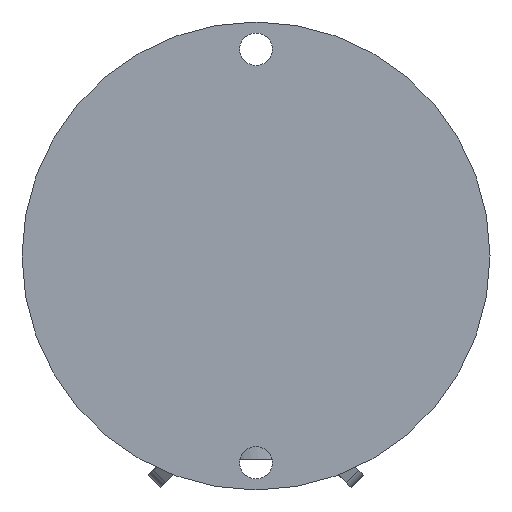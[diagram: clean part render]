
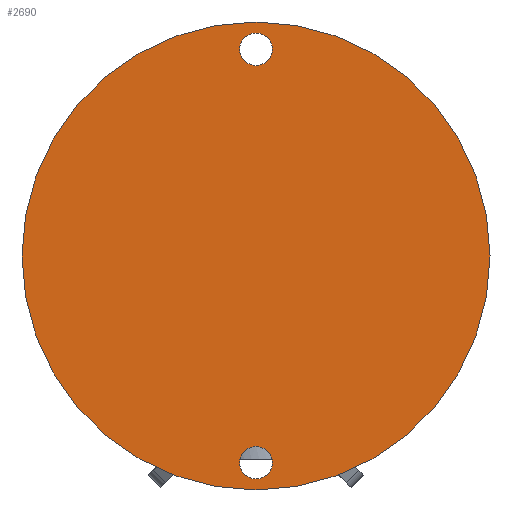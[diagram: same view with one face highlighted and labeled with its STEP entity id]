
A CAD part, front view. The second image highlights one B-rep face of the part: STEP entity #2690.
In plain terms, the highlighted planar face has unit normal (0, -1, 0).
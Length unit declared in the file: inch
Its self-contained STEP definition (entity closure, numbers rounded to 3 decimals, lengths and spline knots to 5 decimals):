
#67 = VERTEX_POINT ( 'NONE', #18892 ) ;
#591 = CIRCLE ( 'NONE', #8387, 0.0565 ) ;
#794 = DIRECTION ( 'NONE',  ( 0., 0., -1. ) ) ;
#825 = EDGE_CURVE ( 'NONE', #27585, #8367, #1439, .T. ) ;
#1084 = AXIS2_PLACEMENT_3D ( 'NONE', #24164, #2798, #7682 ) ;
#1149 = EDGE_CURVE ( 'NONE', #22985, #23050, #25855, .T. ) ;
#1316 = DIRECTION ( 'NONE',  ( 0., -1., 0. ) ) ;
#1439 = CIRCLE ( 'NONE', #15087, 0.0565 ) ;
#1832 = AXIS2_PLACEMENT_3D ( 'NONE', #27152, #20216, #22602 ) ;
#2613 = FACE_BOUND ( 'NONE', #23952, .T. ) ;
#2690 = ADVANCED_FACE ( 'NONE', ( #2613, #14511, #28565 ), #28194, .F. ) ;
#2798 = DIRECTION ( 'NONE',  ( 0., -1., 0. ) ) ;
#3158 = DIRECTION ( 'NONE',  ( 0., 1., 0. ) ) ;
#4376 = CARTESIAN_POINT ( 'NONE',  ( 0., -0.51295, 0.81225 ) ) ;
#4676 = CIRCLE ( 'NONE', #5313, 0.81225 ) ;
#5313 = AXIS2_PLACEMENT_3D ( 'NONE', #17573, #15212, #22229 ) ;
#6348 = AXIS2_PLACEMENT_3D ( 'NONE', #25614, #18888, #11721 ) ;
#7219 = EDGE_CURVE ( 'NONE', #67, #26122, #591, .T. ) ;
#7682 = DIRECTION ( 'NONE',  ( 0., 0., 1. ) ) ;
#7728 = ORIENTED_EDGE ( 'NONE', *, *, #28022, .F. ) ;
#8029 = CARTESIAN_POINT ( 'NONE',  ( 0., -0.51295, 0. ) ) ;
#8262 = ORIENTED_EDGE ( 'NONE', *, *, #825, .F. ) ;
#8367 = VERTEX_POINT ( 'NONE', #24010 ) ;
#8387 = AXIS2_PLACEMENT_3D ( 'NONE', #17795, #1316, #20267 ) ;
#8686 = CARTESIAN_POINT ( 'NONE',  ( 0., -0.51295, 0.774 ) ) ;
#9640 = CARTESIAN_POINT ( 'NONE',  ( 0., -0.51295, -0.81225 ) ) ;
#9863 = ORIENTED_EDGE ( 'NONE', *, *, #18948, .F. ) ;
#10116 = EDGE_CURVE ( 'NONE', #8367, #27585, #20554, .T. ) ;
#11721 = DIRECTION ( 'NONE',  ( 0., 0., 1. ) ) ;
#13868 = CIRCLE ( 'NONE', #1832, 0.0565 ) ;
#13988 = DIRECTION ( 'NONE',  ( 0., 0., 1. ) ) ;
#14019 = CARTESIAN_POINT ( 'NONE',  ( 0., -0.51295, -0.7175 ) ) ;
#14193 = EDGE_LOOP ( 'NONE', ( #7728, #24442 ) ) ;
#14511 = FACE_BOUND ( 'NONE', #30480, .T. ) ;
#15087 = AXIS2_PLACEMENT_3D ( 'NONE', #14019, #28151, #13988 ) ;
#15212 = DIRECTION ( 'NONE',  ( 0., 1., 0. ) ) ;
#17573 = CARTESIAN_POINT ( 'NONE',  ( 0., -0.51295, 0. ) ) ;
#17795 = CARTESIAN_POINT ( 'NONE',  ( 0., -0.51295, 0.7175 ) ) ;
#18888 = DIRECTION ( 'NONE',  ( 0., 1., 0. ) ) ;
#18892 = CARTESIAN_POINT ( 'NONE',  ( 0., -0.51295, 0.661 ) ) ;
#18948 = EDGE_CURVE ( 'NONE', #26122, #67, #13868, .T. ) ;
#20216 = DIRECTION ( 'NONE',  ( 0., -1., 0. ) ) ;
#20267 = DIRECTION ( 'NONE',  ( 0., 0., 1. ) ) ;
#20554 = CIRCLE ( 'NONE', #1084, 0.0565 ) ;
#22229 = DIRECTION ( 'NONE',  ( 0., 0., -1. ) ) ;
#22602 = DIRECTION ( 'NONE',  ( 0., 0., 1. ) ) ;
#22985 = VERTEX_POINT ( 'NONE', #4376 ) ;
#23050 = VERTEX_POINT ( 'NONE', #9640 ) ;
#23378 = ORIENTED_EDGE ( 'NONE', *, *, #10116, .F. ) ;
#23952 = EDGE_LOOP ( 'NONE', ( #24120, #9863 ) ) ;
#24010 = CARTESIAN_POINT ( 'NONE',  ( 0., -0.51295, -0.661 ) ) ;
#24120 = ORIENTED_EDGE ( 'NONE', *, *, #7219, .F. ) ;
#24164 = CARTESIAN_POINT ( 'NONE',  ( 0., -0.51295, -0.7175 ) ) ;
#24442 = ORIENTED_EDGE ( 'NONE', *, *, #1149, .F. ) ;
#24597 = AXIS2_PLACEMENT_3D ( 'NONE', #8029, #3158, #794 ) ;
#24988 = CARTESIAN_POINT ( 'NONE',  ( 0., -0.51295, -0.774 ) ) ;
#25614 = CARTESIAN_POINT ( 'NONE',  ( -0.79564, -0.51295, 0. ) ) ;
#25855 = CIRCLE ( 'NONE', #24597, 0.81225 ) ;
#26122 = VERTEX_POINT ( 'NONE', #8686 ) ;
#27152 = CARTESIAN_POINT ( 'NONE',  ( 0., -0.51295, 0.7175 ) ) ;
#27585 = VERTEX_POINT ( 'NONE', #24988 ) ;
#28022 = EDGE_CURVE ( 'NONE', #23050, #22985, #4676, .T. ) ;
#28151 = DIRECTION ( 'NONE',  ( 0., -1., 0. ) ) ;
#28194 = PLANE ( 'NONE',  #6348 ) ;
#28565 = FACE_OUTER_BOUND ( 'NONE', #14193, .T. ) ;
#30480 = EDGE_LOOP ( 'NONE', ( #8262, #23378 ) ) ;
